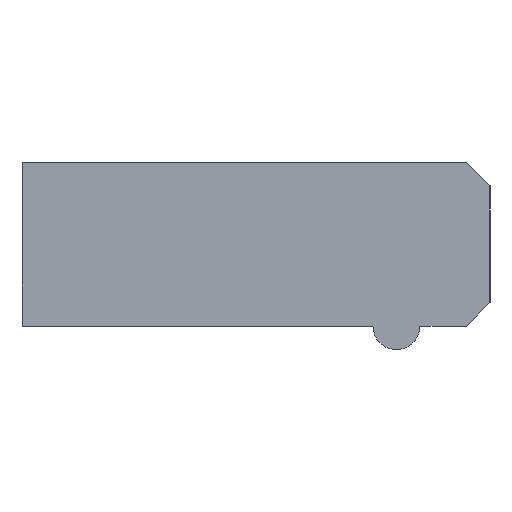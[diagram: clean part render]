
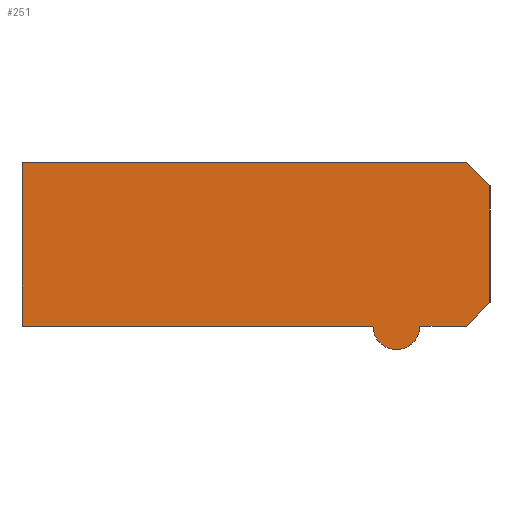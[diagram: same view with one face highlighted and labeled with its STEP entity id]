
A CAD part, left-side view. The second image highlights one B-rep face of the part: STEP entity #251.
In plain terms, the highlighted planar face has unit normal (-1, 0, 0).
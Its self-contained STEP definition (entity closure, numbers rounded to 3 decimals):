
#105 = EDGE_CURVE( '', #221, #237, #276, .T. );
#111 = VERTEX_POINT( '', #283 );
#119 = EDGE_CURVE( '', #237, #111, #292, .T. );
#121 = VERTEX_POINT( '', #294 );
#129 = EDGE_CURVE( '', #209, #141, #303, .T. );
#135 = EDGE_CURVE( '', #149, #221, #309, .T. );
#141 = VERTEX_POINT( '', #316 );
#149 = VERTEX_POINT( '', #324 );
#151 = EDGE_CURVE( '', #111, #121, #326, .T. );
#179 = VERTEX_POINT( '', #358 );
#205 = EDGE_CURVE( '', #121, #179, #386, .T. );
#209 = VERTEX_POINT( '', #390 );
#221 = VERTEX_POINT( '', #405 );
#231 = EDGE_CURVE( '', #179, #209, #416, .T. );
#233 = EDGE_CURVE( '', #141, #149, #418, .T. );
#237 = VERTEX_POINT( '', #422 );
#251 = ADVANCED_FACE( '', ( #437 ), #438, .F. );
#276 = LINE( '', #457, #458 );
#283 = CARTESIAN_POINT( '', ( -6., -15., -3.5 ) );
#292 = CIRCLE( '', #476, 1. );
#294 = CARTESIAN_POINT( '', ( -6., 0., -3.5 ) );
#303 = LINE( '', #487, #488 );
#309 = LINE( '', #499, #500 );
#316 = CARTESIAN_POINT( '', ( -6., -20., 2.5 ) );
#324 = CARTESIAN_POINT( '', ( -6., -20., -2.5 ) );
#326 = LINE( '', #523, #524 );
#358 = CARTESIAN_POINT( '', ( -6., 0., 3.5 ) );
#386 = LINE( '', #603, #604 );
#390 = CARTESIAN_POINT( '', ( -6., -19., 3.5 ) );
#405 = CARTESIAN_POINT( '', ( -6., -19., -3.5 ) );
#416 = LINE( '', #645, #646 );
#418 = LINE( '', #649, #650 );
#422 = CARTESIAN_POINT( '', ( -6., -17., -3.5 ) );
#437 = FACE_OUTER_BOUND( '', #676, .T. );
#438 = PLANE( '', #677 );
#457 = CARTESIAN_POINT( '', ( -6., -19., -3.5 ) );
#458 = VECTOR( '', #691, 1. );
#476 = AXIS2_PLACEMENT_3D( '', #715, #716, #717 );
#487 = CARTESIAN_POINT( '', ( -6., -19., 3.5 ) );
#488 = VECTOR( '', #727, 1. );
#499 = CARTESIAN_POINT( '', ( -6., -20., -2.5 ) );
#500 = VECTOR( '', #730, 1. );
#523 = CARTESIAN_POINT( '', ( -6., -15., -3.5 ) );
#524 = VECTOR( '', #744, 1. );
#603 = CARTESIAN_POINT( '', ( -6., 0., -3.5 ) );
#604 = VECTOR( '', #810, 1. );
#645 = CARTESIAN_POINT( '', ( -6., 0., 3.5 ) );
#646 = VECTOR( '', #841, 1. );
#649 = CARTESIAN_POINT( '', ( -6., -20., 2.5 ) );
#650 = VECTOR( '', #842, 1. );
#676 = EDGE_LOOP( '', ( #858, #859, #860, #861, #862, #863, #864, #865 ) );
#677 = AXIS2_PLACEMENT_3D( '', #866, #867, #868 );
#691 = DIRECTION( '', ( 0., 1., 0. ) );
#715 = CARTESIAN_POINT( '', ( -6., -16., -3.5 ) );
#716 = DIRECTION( '', ( 1., 0., 0. ) );
#717 = DIRECTION( '', ( 0., -1., 0. ) );
#727 = DIRECTION( '', ( 0., -0.707, -0.707 ) );
#730 = DIRECTION( '', ( 0., 0.707, -0.707 ) );
#744 = DIRECTION( '', ( 0., 1., 0. ) );
#810 = DIRECTION( '', ( 0., 0., 1. ) );
#841 = DIRECTION( '', ( 0., -1., 0. ) );
#842 = DIRECTION( '', ( 0., 0., -1. ) );
#858 = ORIENTED_EDGE( '', *, *, #233, .F. );
#859 = ORIENTED_EDGE( '', *, *, #129, .F. );
#860 = ORIENTED_EDGE( '', *, *, #231, .F. );
#861 = ORIENTED_EDGE( '', *, *, #205, .F. );
#862 = ORIENTED_EDGE( '', *, *, #151, .F. );
#863 = ORIENTED_EDGE( '', *, *, #119, .F. );
#864 = ORIENTED_EDGE( '', *, *, #105, .F. );
#865 = ORIENTED_EDGE( '', *, *, #135, .F. );
#866 = CARTESIAN_POINT( '', ( -6., 0., 0. ) );
#867 = DIRECTION( '', ( 1., 0., 0. ) );
#868 = DIRECTION( '', ( 0., 0., -1. ) );
